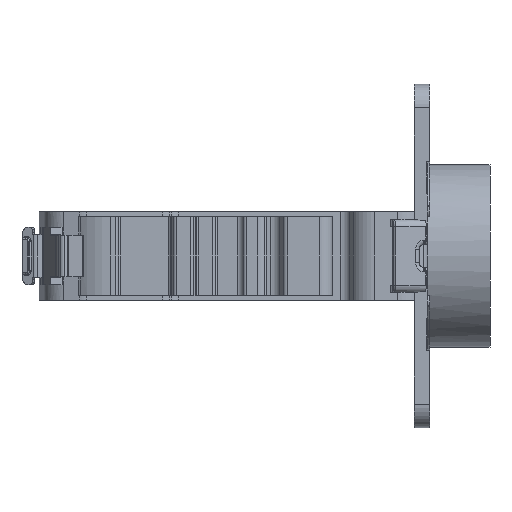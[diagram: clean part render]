
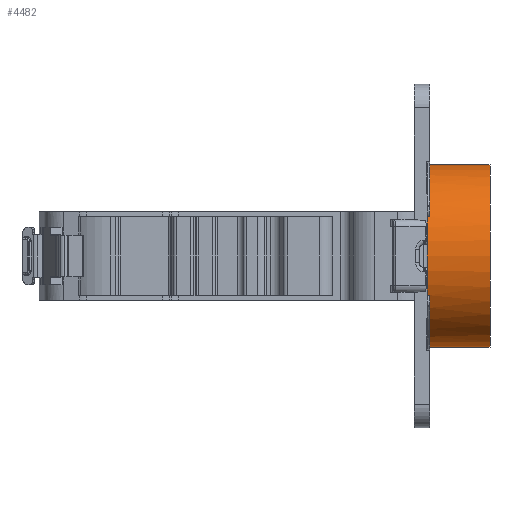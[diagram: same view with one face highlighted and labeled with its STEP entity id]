
A CAD part, front view. The second image highlights one B-rep face of the part: STEP entity #4482.
In plain terms, the highlighted cylindrical face has radius 17.4 mm (diameter 34.8 mm), a partial arc.
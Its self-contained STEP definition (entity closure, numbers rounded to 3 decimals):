
#2 = CARTESIAN_POINT ( 'NONE',  ( 1.5, 5.5, 17.4 ) ) ;
#83 = CARTESIAN_POINT ( 'NONE',  ( 1.022, -10.106, -7.698 ) ) ;
#130 = CARTESIAN_POINT ( 'NONE',  ( 7., -10.201, 7.5 ) ) ;
#131 = CARTESIAN_POINT ( 'NONE',  ( 1., -9.905, -8.09 ) ) ;
#154 = CIRCLE ( 'NONE', #4221, 17.4 ) ;
#335 = LINE ( 'NONE', #130, #3099 ) ;
#434 = VERTEX_POINT ( 'NONE', #11850 ) ;
#698 = CARTESIAN_POINT ( 'NONE',  ( 13., 5.5, 0. ) ) ;
#776 = EDGE_CURVE ( 'NONE', #4468, #9116, #3200, .T. ) ;
#1209 = EDGE_CURVE ( 'NONE', #2580, #1579, #12149, .T. ) ;
#1364 = CARTESIAN_POINT ( 'NONE',  ( 1.022, -10.106, 7.698 ) ) ;
#1549 = VECTOR ( 'NONE', #1803, 1000. ) ;
#1579 = VERTEX_POINT ( 'NONE', #7690 ) ;
#1803 = DIRECTION ( 'NONE',  ( -1., 0., 0. ) ) ;
#1831 = DIRECTION ( 'NONE',  ( -1., 0., 0. ) ) ;
#1929 = CARTESIAN_POINT ( 'NONE',  ( 7., -10.201, -7.5 ) ) ;
#1979 = EDGE_CURVE ( 'NONE', #10108, #7093, #10547, .T. ) ;
#2147 = EDGE_CURVE ( 'NONE', #434, #3720, #2617, .T. ) ;
#2488 = CARTESIAN_POINT ( 'NONE',  ( 1., -9.905, 8.09 ) ) ;
#2580 = VERTEX_POINT ( 'NONE', #11208 ) ;
#2617 = LINE ( 'NONE', #2811, #1549 ) ;
#2721 = CARTESIAN_POINT ( 'NONE',  ( 1.5, 5.5, -17.4 ) ) ;
#2811 = CARTESIAN_POINT ( 'NONE',  ( 13., 5.5, 17.4 ) ) ;
#2896 = AXIS2_PLACEMENT_3D ( 'NONE', #698, #1831, #5930 ) ;
#2936 = DIRECTION ( 'NONE',  ( 1., 0., 0. ) ) ;
#3099 = VECTOR ( 'NONE', #10414, 1000. ) ;
#3200 = LINE ( 'NONE', #7308, #12891 ) ;
#3720 = VERTEX_POINT ( 'NONE', #2 ) ;
#3867 = ORIENTED_EDGE ( 'NONE', *, *, #7336, .T. ) ;
#4187 = DIRECTION ( 'NONE',  ( 0., 0., 1. ) ) ;
#4221 = AXIS2_PLACEMENT_3D ( 'NONE', #12466, #6144, #4187 ) ;
#4468 = VERTEX_POINT ( 'NONE', #5998 ) ;
#4482 = ADVANCED_FACE ( 'NONE', ( #4995 ), #12055, .T. ) ;
#4995 = FACE_OUTER_BOUND ( 'NONE', #5619, .T. ) ;
#5207 = CARTESIAN_POINT ( 'NONE',  ( 1.047, -10.2, 7.5 ) ) ;
#5414 = EDGE_CURVE ( 'NONE', #10258, #10108, #335, .T. ) ;
#5458 = ORIENTED_EDGE ( 'NONE', *, *, #5613, .F. ) ;
#5590 = CARTESIAN_POINT ( 'NONE',  ( 1.047, -10.2, 7.5 ) ) ;
#5613 = EDGE_CURVE ( 'NONE', #434, #4468, #12972, .T. ) ;
#5619 = EDGE_LOOP ( 'NONE', ( #12746, #5458, #6329, #7186, #8286, #8537, #6548, #3867, #10716, #6679 ) ) ;
#5930 = DIRECTION ( 'NONE',  ( 0., 0., 1. ) ) ;
#5998 = CARTESIAN_POINT ( 'NONE',  ( 13., 5.5, -17.4 ) ) ;
#6124 = DIRECTION ( 'NONE',  ( -1., 0., 0. ) ) ;
#6144 = DIRECTION ( 'NONE',  ( -1., 0., 0. ) ) ;
#6179 = AXIS2_PLACEMENT_3D ( 'NONE', #8430, #6124, #12519 ) ;
#6329 = ORIENTED_EDGE ( 'NONE', *, *, #2147, .T. ) ;
#6548 = ORIENTED_EDGE ( 'NONE', *, *, #11101, .T. ) ;
#6679 = ORIENTED_EDGE ( 'NONE', *, *, #6782, .F. ) ;
#6782 = EDGE_CURVE ( 'NONE', #9116, #1579, #154, .T. ) ;
#6825 = DIRECTION ( 'NONE',  ( 0., 0., -1. ) ) ;
#7093 = VERTEX_POINT ( 'NONE', #7875 ) ;
#7186 = ORIENTED_EDGE ( 'NONE', *, *, #8010, .F. ) ;
#7223 = CARTESIAN_POINT ( 'NONE',  ( 1., -10.008, -7.894 ) ) ;
#7308 = CARTESIAN_POINT ( 'NONE',  ( 13., 5.5, -17.4 ) ) ;
#7336 = EDGE_CURVE ( 'NONE', #12092, #2580, #11298, .T. ) ;
#7510 = AXIS2_PLACEMENT_3D ( 'NONE', #9411, #8474, #9546 ) ;
#7690 = CARTESIAN_POINT ( 'NONE',  ( 1.5, -10.201, -7.5 ) ) ;
#7875 = CARTESIAN_POINT ( 'NONE',  ( 1., -9.905, 8.09 ) ) ;
#8010 = EDGE_CURVE ( 'NONE', #10258, #3720, #9205, .T. ) ;
#8270 = AXIS2_PLACEMENT_3D ( 'NONE', #11065, #10046, #6825 ) ;
#8286 = ORIENTED_EDGE ( 'NONE', *, *, #5414, .T. ) ;
#8430 = CARTESIAN_POINT ( 'NONE',  ( 1.5, 5.5, 0. ) ) ;
#8474 = DIRECTION ( 'NONE',  ( 1., 0., 0. ) ) ;
#8537 = ORIENTED_EDGE ( 'NONE', *, *, #1979, .T. ) ;
#9116 = VERTEX_POINT ( 'NONE', #2721 ) ;
#9205 = CIRCLE ( 'NONE', #6179, 17.4 ) ;
#9252 = VECTOR ( 'NONE', #2936, 1000. ) ;
#9369 = CARTESIAN_POINT ( 'NONE',  ( 1.047, -10.2, -7.5 ) ) ;
#9411 = CARTESIAN_POINT ( 'NONE',  ( 1., 5.5, 0. ) ) ;
#9546 = DIRECTION ( 'NONE',  ( 0., 0., 1. ) ) ;
#10046 = DIRECTION ( 'NONE',  ( 1., 0., 0. ) ) ;
#10108 = VERTEX_POINT ( 'NONE', #5207 ) ;
#10258 = VERTEX_POINT ( 'NONE', #11669 ) ;
#10414 = DIRECTION ( 'NONE',  ( -1., 0., 0. ) ) ;
#10547 = B_SPLINE_CURVE_WITH_KNOTS ( 'NONE', 3,
 ( #5590, #1364, #12580, #2488 ),
 .UNSPECIFIED., .F., .F.,
 ( 4, 4 ),
 ( 0.001, 0.001 ),
 .UNSPECIFIED. ) ;
#10716 = ORIENTED_EDGE ( 'NONE', *, *, #1209, .T. ) ;
#11065 = CARTESIAN_POINT ( 'NONE',  ( 13., 5.5, 0. ) ) ;
#11101 = EDGE_CURVE ( 'NONE', #7093, #12092, #13290, .T. ) ;
#11208 = CARTESIAN_POINT ( 'NONE',  ( 1.047, -10.2, -7.5 ) ) ;
#11212 = DIRECTION ( 'NONE',  ( -1., 0., 0. ) ) ;
#11221 = CARTESIAN_POINT ( 'NONE',  ( 1., -9.905, -8.09 ) ) ;
#11298 = B_SPLINE_CURVE_WITH_KNOTS ( 'NONE', 3,
 ( #11221, #7223, #83, #9369 ),
 .UNSPECIFIED., .F., .F.,
 ( 4, 4 ),
 ( 0., 0.001 ),
 .UNSPECIFIED. ) ;
#11669 = CARTESIAN_POINT ( 'NONE',  ( 1.5, -10.201, 7.5 ) ) ;
#11850 = CARTESIAN_POINT ( 'NONE',  ( 13., 5.5, 17.4 ) ) ;
#12055 = CYLINDRICAL_SURFACE ( 'NONE', #2896, 17.4 ) ;
#12092 = VERTEX_POINT ( 'NONE', #131 ) ;
#12149 = LINE ( 'NONE', #1929, #9252 ) ;
#12466 = CARTESIAN_POINT ( 'NONE',  ( 1.5, 5.5, 0. ) ) ;
#12519 = DIRECTION ( 'NONE',  ( 0., 0., 1. ) ) ;
#12580 = CARTESIAN_POINT ( 'NONE',  ( 1., -10.008, 7.894 ) ) ;
#12746 = ORIENTED_EDGE ( 'NONE', *, *, #776, .F. ) ;
#12891 = VECTOR ( 'NONE', #11212, 1000. ) ;
#12972 = CIRCLE ( 'NONE', #8270, 17.4 ) ;
#13290 = CIRCLE ( 'NONE', #7510, 17.4 ) ;
